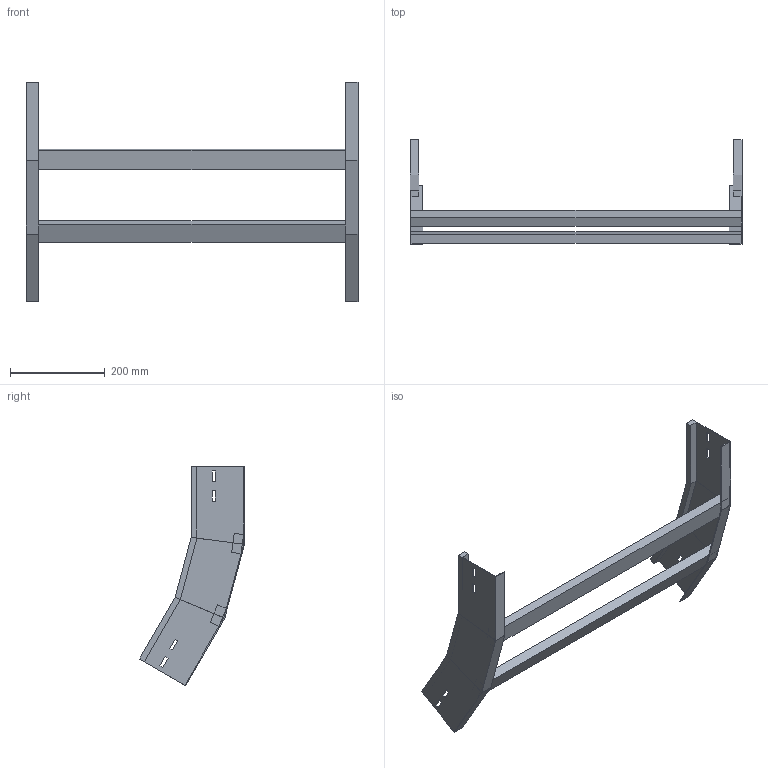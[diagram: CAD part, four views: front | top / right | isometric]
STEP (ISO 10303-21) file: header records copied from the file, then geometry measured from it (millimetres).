
FILE_DESCRIPTION (( 'STEP AP214' ), '1' );
FILE_NAME ('A2X32B5J700XX.step', '2025-03-20T10:00:01', ( '' ), ( '' ), 'SwSTEP 2.0', 'SolidWorks 2023', '' );
FILE_SCHEMA (( 'AUTOMOTIVE_DESIGN' ));
Length unit declared in the file: millimetre
Products named in the file (3): TRAVERSINO_700; A2X32B5J700XX; LONGH.SALITA_30°_H112.5_R500
Assembly tree (4 placements, depth 2):
  A2X32B5J700XX
    LONGH.SALITA_30°_H112.5_R500  x2
    TRAVERSINO_700  x2
Bounding box: 700 x 221.37 x 462.57 mm (x, y, z)
Volume: 1547890.7 mm3; surface area: 459637.4 mm2
Topology: 4 solids, 4 shells, 96 faces, 232 edges, 144 vertices
Faces by surface type: plane 96
Entity records: 1472 total; most frequent: CARTESIAN_POINT 243, ORIENTED_EDGE 232, DIRECTION 226, EDGE_CURVE 116, VECTOR 116, LINE 116, VERTEX_POINT 72, EDGE_LOOP 56
